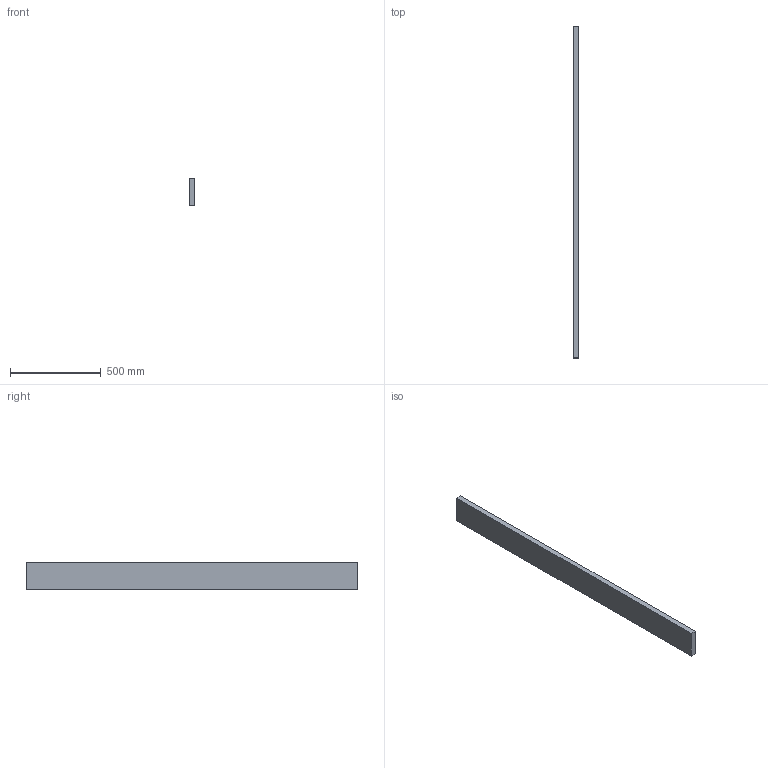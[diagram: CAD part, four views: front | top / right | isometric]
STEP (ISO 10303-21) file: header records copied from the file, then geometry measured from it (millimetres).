
FILE_DESCRIPTION(/* description */ (''),/* implementation_level */ '2;1');
FILE_NAME(/* name */ 'SM_Baffle1.2x6x72',/* time_stamp */ '2024-10-15T11:56:39-05:00',/* author */ (''),/* organization */ (''),/* preprocessor_version */ 'ST-DEVELOPER v19.2',/* originating_system */ 'Rhino 8.4',/* authorisation */ '');
FILE_SCHEMA (('CONFIG_CONTROL_DESIGN'));
Length unit declared in the file: inch
Products named in the file (1): Document
Bounding box: 30.48 x 1828.8 x 152.4 mm (x, y, z)
Volume: 8495054 mm3; surface area: 678192.2 mm2
Topology: 1 solids, 1 shells, 6 faces, 12 edges, 8 vertices
Faces by surface type: plane 6
Entity records: 226 total; most frequent: CARTESIAN_POINT 40, ORIENTED_EDGE 24, EDGE_CURVE 12, B_SPLINE_CURVE_WITH_KNOTS 12, DIRECTION 10, VERTEX_POINT 8, AXIS2_PLACEMENT_3D 8, ORGANIZATION 7
